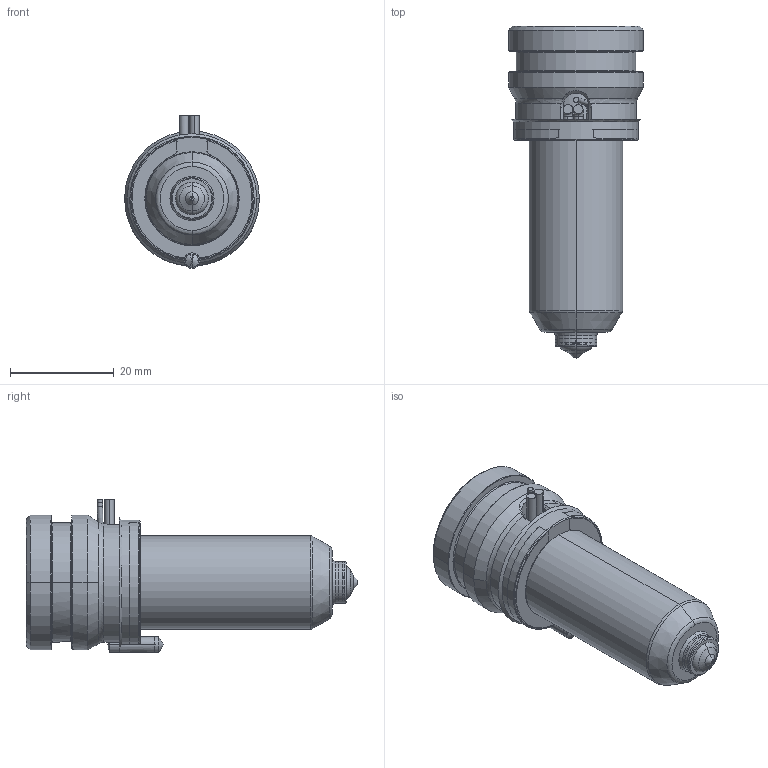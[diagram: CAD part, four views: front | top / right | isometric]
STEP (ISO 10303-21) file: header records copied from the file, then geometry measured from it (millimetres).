
FILE_DESCRIPTION((''),'2;1');
FILE_NAME('TH18046-A-1-PK-JG','2023-12-14T',('umhib'),('Thermoplay S.p.A.'),'PRO/ENGINEER BY PARAMETRIC TECHNOLOGY CORPORATION, 2017170','PRO/ENGINEER BY PARAMETRIC TECHNOLOGY CORPORATION, 2017170','');
FILE_SCHEMA(('CONFIG_CONTROL_DESIGN'));
Length unit declared in the file: millimetre
Products named in the file (1): TH18046-A-1-PK-JG
Bounding box: 26 x 64 x 29.5 mm (x, y, z)
Volume: 15067.3 mm3; surface area: 10961.8 mm2
Topology: 1 solids, 2 shells, 396 faces, 1032 edges, 641 vertices
Faces by surface type: cylinder 151, plane 85, cone 66, torus 56, bspline 24, sphere 12, extrusion 2
Entity records: 18008 total; most frequent: CARTESIAN_POINT 6096, ORIENTED_EDGE 2040, DIRECTION 2023, EDGE_CURVE 1022, AXIS2_PLACEMENT_3D 812, VERTEX_POINT 641, CIRCLE 441, EDGE_LOOP 416
